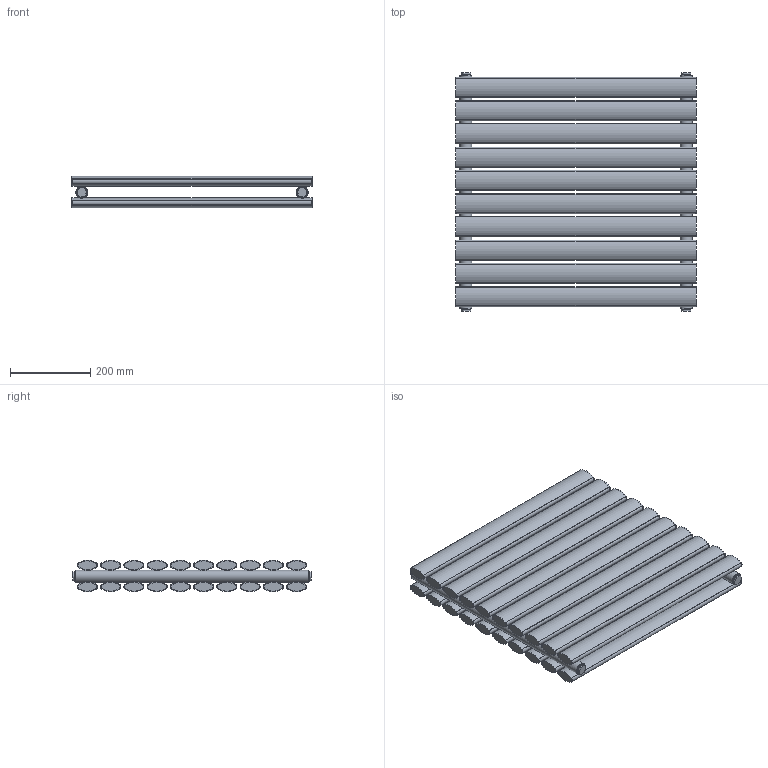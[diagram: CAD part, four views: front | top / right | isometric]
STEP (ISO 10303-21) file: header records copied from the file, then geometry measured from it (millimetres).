
FILE_DESCRIPTION(/* description */ (''),/* implementation_level */ '2;1');
FILE_NAME(/* name */ 'C:\Grzejniki\13DLUXRAD\pokojowe\FORTUNA\FORTUNA PODWÓJNA 600x584.iam.stp',/* time_stamp */ '2016-06-28T17:32:00+02:00',/* author */ ('m.szydziak'),/* organization */ (''),/* preprocessor_version */ 'ST-DEVELOPER v16.5',/* originating_system */ 'Autodesk Inventor 2017',/* authorisation */ '');
FILE_SCHEMA (('AUTOMOTIVE_DESIGN { 1 0 10303 214 3 1 1 }'));
Length unit declared in the file: millimetre
Products named in the file (5): FORTUNA PODWÓJNA 600x584; %%c30x1,5x584; 50x25x1,2x600; zaślepka fi30 G0,5inch; korek
Assembly tree (30 placements, depth 2):
  FORTUNA PODWÓJNA 600x584
    %%c30x1,5x584  x2
    50x25x1,2x600  x20
    zaślepka fi30 G0,5inch  x4
    korek  x4
Bounding box: 600 x 596 x 78.22 mm (x, y, z)
Volume: 1887164 mm3; surface area: 3083849.8 mm2
Topology: 30 solids, 30 shells, 384 faces, 976 edges, 692 vertices
Faces by surface type: cylinder 236, plane 148
Full cylindrical faces by diameter (mm): 5 x20, 5.8 x40, 18.631 x4, 24 x4, 27 x6, 30 x2
Entity records: 2517 total; most frequent: CARTESIAN_POINT 1088, DIRECTION 270, ORIENTED_EDGE 210, AXIS2_PLACEMENT_3D 119, EDGE_CURVE 105, EDGE_LOOP 92, VERTEX_POINT 85, FACE_OUTER_BOUND 47
